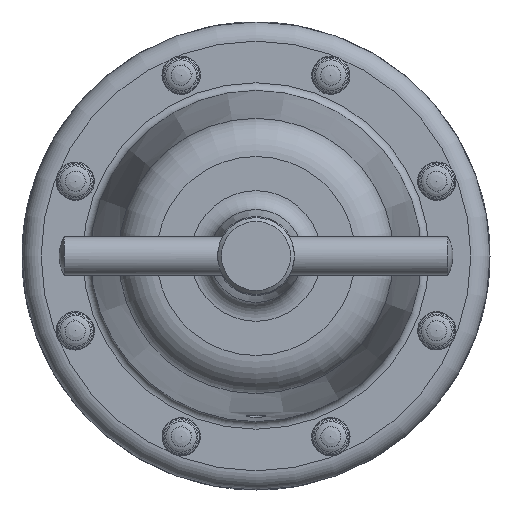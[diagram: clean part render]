
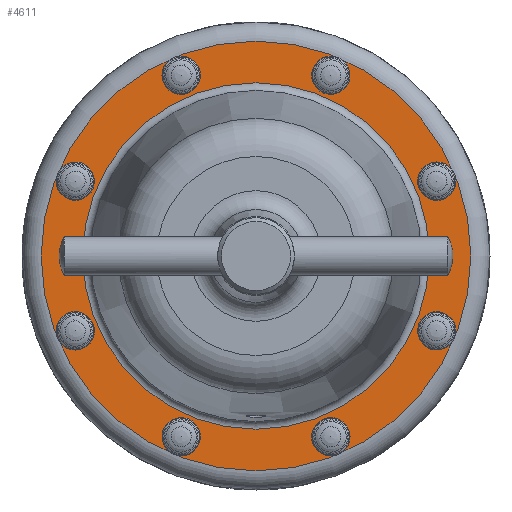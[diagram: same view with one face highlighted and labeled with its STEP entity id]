
A CAD part, left-side view. The second image highlights one B-rep face of the part: STEP entity #4611.
In plain terms, the highlighted planar face has unit normal (-1, 0, 0) as drawn and (0, 1, 0) by its records, which use the part's own axes.
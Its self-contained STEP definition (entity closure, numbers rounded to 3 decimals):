
#297=PLANE('',#5124);
#373=FACE_BOUND('',#1612,.T.);
#374=FACE_BOUND('',#1613,.T.);
#375=FACE_BOUND('',#1614,.T.);
#376=FACE_BOUND('',#1615,.T.);
#377=FACE_BOUND('',#1616,.T.);
#378=FACE_BOUND('',#1617,.T.);
#379=FACE_BOUND('',#1618,.T.);
#380=FACE_BOUND('',#1619,.T.);
#381=FACE_BOUND('',#1620,.T.);
#966=CIRCLE('',#5070,3.3);
#968=CIRCLE('',#5073,3.3);
#970=CIRCLE('',#5076,3.3);
#972=CIRCLE('',#5079,3.3);
#974=CIRCLE('',#5082,3.3);
#976=CIRCLE('',#5085,3.3);
#978=CIRCLE('',#5088,3.3);
#980=CIRCLE('',#5091,3.3);
#1000=CIRCLE('',#5122,45.148);
#1002=CIRCLE('',#5125,56.);
#1298=FACE_OUTER_BOUND('',#1611,.T.);
#1611=EDGE_LOOP('',(#3871));
#1612=EDGE_LOOP('',(#3872));
#1613=EDGE_LOOP('',(#3873));
#1614=EDGE_LOOP('',(#3874));
#1615=EDGE_LOOP('',(#3875));
#1616=EDGE_LOOP('',(#3876));
#1617=EDGE_LOOP('',(#3877));
#1618=EDGE_LOOP('',(#3878));
#1619=EDGE_LOOP('',(#3879));
#1620=EDGE_LOOP('',(#3880));
#2163=VERTEX_POINT('',#12226);
#2165=VERTEX_POINT('',#12232);
#2167=VERTEX_POINT('',#12238);
#2169=VERTEX_POINT('',#12244);
#2171=VERTEX_POINT('',#12250);
#2173=VERTEX_POINT('',#12256);
#2175=VERTEX_POINT('',#12262);
#2177=VERTEX_POINT('',#12268);
#2194=VERTEX_POINT('',#12321);
#2195=VERTEX_POINT('',#12325);
#2737=EDGE_CURVE('',#2163,#2163,#966,.T.);
#2740=EDGE_CURVE('',#2165,#2165,#968,.T.);
#2743=EDGE_CURVE('',#2167,#2167,#970,.T.);
#2746=EDGE_CURVE('',#2169,#2169,#972,.T.);
#2749=EDGE_CURVE('',#2171,#2171,#974,.T.);
#2752=EDGE_CURVE('',#2173,#2173,#976,.T.);
#2755=EDGE_CURVE('',#2175,#2175,#978,.T.);
#2758=EDGE_CURVE('',#2177,#2177,#980,.T.);
#2783=EDGE_CURVE('',#2194,#2194,#1000,.T.);
#2785=EDGE_CURVE('',#2195,#2195,#1002,.T.);
#3871=ORIENTED_EDGE('',*,*,#2785,.F.);
#3872=ORIENTED_EDGE('',*,*,#2737,.T.);
#3873=ORIENTED_EDGE('',*,*,#2740,.T.);
#3874=ORIENTED_EDGE('',*,*,#2743,.T.);
#3875=ORIENTED_EDGE('',*,*,#2746,.T.);
#3876=ORIENTED_EDGE('',*,*,#2749,.T.);
#3877=ORIENTED_EDGE('',*,*,#2752,.T.);
#3878=ORIENTED_EDGE('',*,*,#2755,.T.);
#3879=ORIENTED_EDGE('',*,*,#2758,.T.);
#3880=ORIENTED_EDGE('',*,*,#2783,.T.);
#4611=ADVANCED_FACE('',(#1298,#373,#374,#375,#376,#377,#378,#379,#380,#381),
#297,.T.);
#5070=AXIS2_PLACEMENT_3D('',#12227,#5990,#5991);
#5073=AXIS2_PLACEMENT_3D('',#12233,#5997,#5998);
#5076=AXIS2_PLACEMENT_3D('',#12239,#6004,#6005);
#5079=AXIS2_PLACEMENT_3D('',#12245,#6011,#6012);
#5082=AXIS2_PLACEMENT_3D('',#12251,#6018,#6019);
#5085=AXIS2_PLACEMENT_3D('',#12257,#6025,#6026);
#5088=AXIS2_PLACEMENT_3D('',#12263,#6032,#6033);
#5091=AXIS2_PLACEMENT_3D('',#12269,#6039,#6040);
#5122=AXIS2_PLACEMENT_3D('',#12322,#6106,#6107);
#5124=AXIS2_PLACEMENT_3D('',#12324,#6110,#6111);
#5125=AXIS2_PLACEMENT_3D('',#12326,#6112,#6113);
#5990=DIRECTION('center_axis',(0.,-1.,0.));
#5991=DIRECTION('ref_axis',(0.707,0.,-0.707));
#5997=DIRECTION('center_axis',(0.,-1.,0.));
#5998=DIRECTION('ref_axis',(0.,0.,-1.));
#6004=DIRECTION('center_axis',(0.,-1.,0.));
#6005=DIRECTION('ref_axis',(-0.707,0.,-0.707));
#6011=DIRECTION('center_axis',(0.,-1.,0.));
#6012=DIRECTION('ref_axis',(-1.,0.,0.));
#6018=DIRECTION('center_axis',(0.,-1.,0.));
#6019=DIRECTION('ref_axis',(-0.707,0.,0.707));
#6025=DIRECTION('center_axis',(0.,-1.,0.));
#6026=DIRECTION('ref_axis',(0.,0.,1.));
#6032=DIRECTION('center_axis',(0.,-1.,0.));
#6033=DIRECTION('ref_axis',(0.707,0.,0.707));
#6039=DIRECTION('center_axis',(0.,-1.,0.));
#6040=DIRECTION('ref_axis',(1.,0.,0.));
#6106=DIRECTION('center_axis',(0.,-1.,0.));
#6107=DIRECTION('ref_axis',(1.,0.,0.));
#6110=DIRECTION('center_axis',(0.,1.,0.));
#6111=DIRECTION('ref_axis',(0.,0.,1.));
#6112=DIRECTION('center_axis',(0.,-1.,0.));
#6113=DIRECTION('ref_axis',(1.,0.,0.));
#12226=CARTESIAN_POINT('',(44.784,8.,21.85));
#12227=CARTESIAN_POINT('Origin',(47.118,8.,19.517));
#12232=CARTESIAN_POINT('',(47.118,8.,-16.217));
#12233=CARTESIAN_POINT('Origin',(47.118,8.,-19.517));
#12238=CARTESIAN_POINT('',(21.85,8.,-44.784));
#12239=CARTESIAN_POINT('Origin',(19.517,8.,-47.118));
#12244=CARTESIAN_POINT('',(-16.217,8.,-47.118));
#12245=CARTESIAN_POINT('Origin',(-19.517,8.,-47.118));
#12250=CARTESIAN_POINT('',(-44.784,8.,-21.85));
#12251=CARTESIAN_POINT('Origin',(-47.118,8.,-19.517));
#12256=CARTESIAN_POINT('',(-47.118,8.,16.217));
#12257=CARTESIAN_POINT('Origin',(-47.118,8.,19.517));
#12262=CARTESIAN_POINT('',(-21.85,8.,44.784));
#12263=CARTESIAN_POINT('Origin',(-19.517,8.,47.118));
#12268=CARTESIAN_POINT('',(16.217,8.,47.118));
#12269=CARTESIAN_POINT('Origin',(19.517,8.,47.118));
#12321=CARTESIAN_POINT('',(0.,8.,45.148));
#12322=CARTESIAN_POINT('Origin',(0.,8.,0.));
#12324=CARTESIAN_POINT('Origin',(50.574,8.,0.));
#12325=CARTESIAN_POINT('',(0.,8.,56.));
#12326=CARTESIAN_POINT('Origin',(0.,8.,0.));
